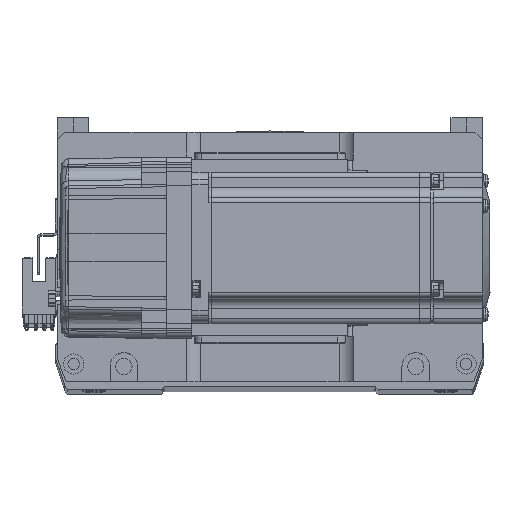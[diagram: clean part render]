
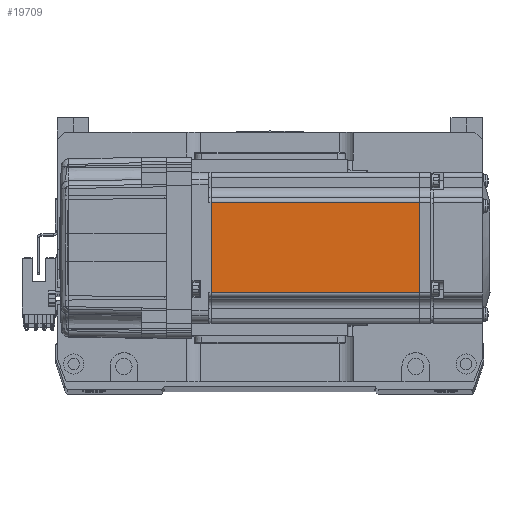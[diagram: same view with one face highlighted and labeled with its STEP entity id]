
A CAD part, top view. The second image highlights one B-rep face of the part: STEP entity #19709.
In plain terms, the highlighted planar face has unit normal (0, 0, 1) as drawn and (0, -1, 0) by its records, which use the part's own axes.
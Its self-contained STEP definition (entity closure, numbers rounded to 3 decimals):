
#2811 = CARTESIAN_POINT ( 'NONE',  ( -90.45, -30., -25. ) ) ;
#4112 = DIRECTION ( 'NONE',  ( 1., 0., 0. ) ) ;
#6998 = CARTESIAN_POINT ( 'NONE',  ( -6.5, -30., 18. ) ) ;
#8300 = DIRECTION ( 'NONE',  ( 0., -1., 0. ) ) ;
#9561 = ORIENTED_EDGE ( 'NONE', *, *, #47546, .T. ) ;
#10093 = CARTESIAN_POINT ( 'NONE',  ( -7.75, -30., -18. ) ) ;
#11327 = LINE ( 'NONE', #6998, #43740 ) ;
#14238 = EDGE_CURVE ( 'NONE', #61814, #55993, #30739, .T. ) ;
#14411 = ORIENTED_EDGE ( 'NONE', *, *, #54597, .T. ) ;
#19383 = FACE_OUTER_BOUND ( 'NONE', #58186, .T. ) ;
#19582 = ORIENTED_EDGE ( 'NONE', *, *, #14238, .T. ) ;
#19709 = ADVANCED_FACE ( 'NONE', ( #19383 ), #32907, .T. ) ;
#22284 = ORIENTED_EDGE ( 'NONE', *, *, #25196, .T. ) ;
#24728 = CARTESIAN_POINT ( 'NONE',  ( -90.45, -30., -18. ) ) ;
#25196 = EDGE_CURVE ( 'NONE', #52396, #61814, #30928, .T. ) ;
#26599 = DIRECTION ( 'NONE',  ( -1., 0., 0. ) ) ;
#27064 = CARTESIAN_POINT ( 'NONE',  ( -6.5, -30., -25. ) ) ;
#28649 = CARTESIAN_POINT ( 'NONE',  ( -6.5, -30., -18. ) ) ;
#30739 = LINE ( 'NONE', #38267, #42300 ) ;
#30928 = LINE ( 'NONE', #28649, #45590 ) ;
#32907 = PLANE ( 'NONE',  #58124 ) ;
#32981 = CARTESIAN_POINT ( 'NONE',  ( -7.75, -30., 18. ) ) ;
#34589 = VECTOR ( 'NONE', #62447, 1000. ) ;
#36984 = DIRECTION ( 'NONE',  ( 0., 0., -1. ) ) ;
#37251 = VERTEX_POINT ( 'NONE', #38935 ) ;
#38267 = CARTESIAN_POINT ( 'NONE',  ( -7.75, -30., -25. ) ) ;
#38935 = CARTESIAN_POINT ( 'NONE',  ( -90.45, -30., 18. ) ) ;
#39970 = LINE ( 'NONE', #2811, #34589 ) ;
#42300 = VECTOR ( 'NONE', #43012, 1000. ) ;
#43012 = DIRECTION ( 'NONE',  ( 0., 0., 1. ) ) ;
#43740 = VECTOR ( 'NONE', #26599, 1000. ) ;
#45590 = VECTOR ( 'NONE', #4112, 1000. ) ;
#47546 = EDGE_CURVE ( 'NONE', #37251, #52396, #39970, .T. ) ;
#52396 = VERTEX_POINT ( 'NONE', #24728 ) ;
#54597 = EDGE_CURVE ( 'NONE', #55993, #37251, #11327, .T. ) ;
#55993 = VERTEX_POINT ( 'NONE', #32981 ) ;
#58124 = AXIS2_PLACEMENT_3D ( 'NONE', #27064, #8300, #36984 ) ;
#58186 = EDGE_LOOP ( 'NONE', ( #19582, #14411, #9561, #22284 ) ) ;
#61814 = VERTEX_POINT ( 'NONE', #10093 ) ;
#62447 = DIRECTION ( 'NONE',  ( 0., 0., -1. ) ) ;
